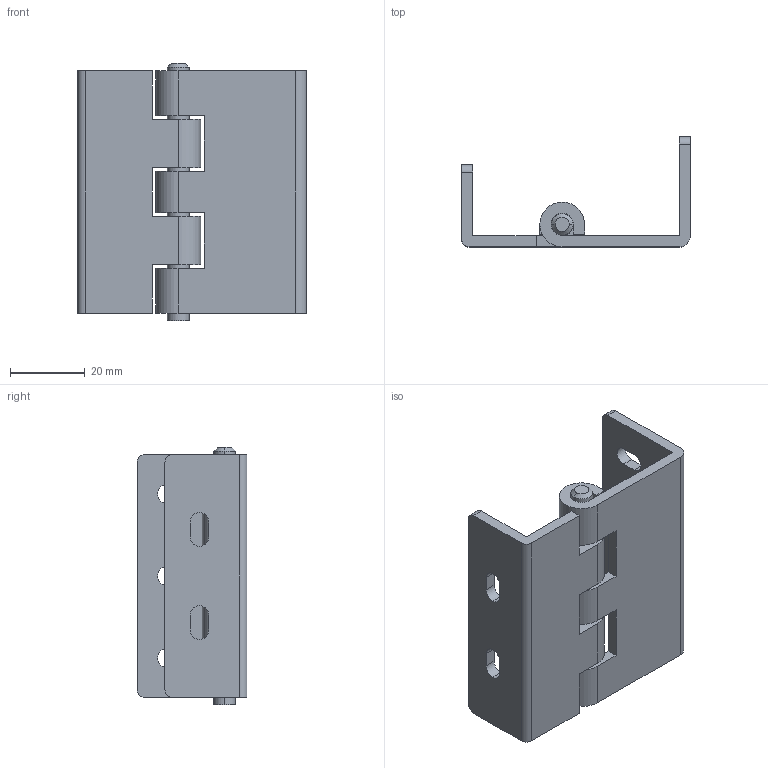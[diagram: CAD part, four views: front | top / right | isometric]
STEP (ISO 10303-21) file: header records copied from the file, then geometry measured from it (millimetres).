
FILE_DESCRIPTION (( 'STEP AP203' ), '1' );
FILE_NAME ('XG02-110.STEP', '2023-12-22T06:17:24', ( '' ), ( '' ), 'SwSTEP 2.0', 'SolidWorks 2020', '' );
FILE_SCHEMA (( 'CONFIG_CONTROL_DESIGN' ));
Length unit declared in the file: millimetre
Products named in the file (1): XG02-110
Bounding box: 61.4 x 29.5 x 69 mm (x, y, z)
Volume: 24792.3 mm3; surface area: 19200.8 mm2
Topology: 3 solids, 3 shells, 89 faces, 247 edges, 164 vertices
Faces by surface type: plane 54, cylinder 33, cone 2
Entity records: 2946 total; most frequent: CARTESIAN_POINT 501, DIRECTION 495, ORIENTED_EDGE 494, EDGE_CURVE 247, VECTOR 179, LINE 179, VERTEX_POINT 164, AXIS2_PLACEMENT_3D 158
